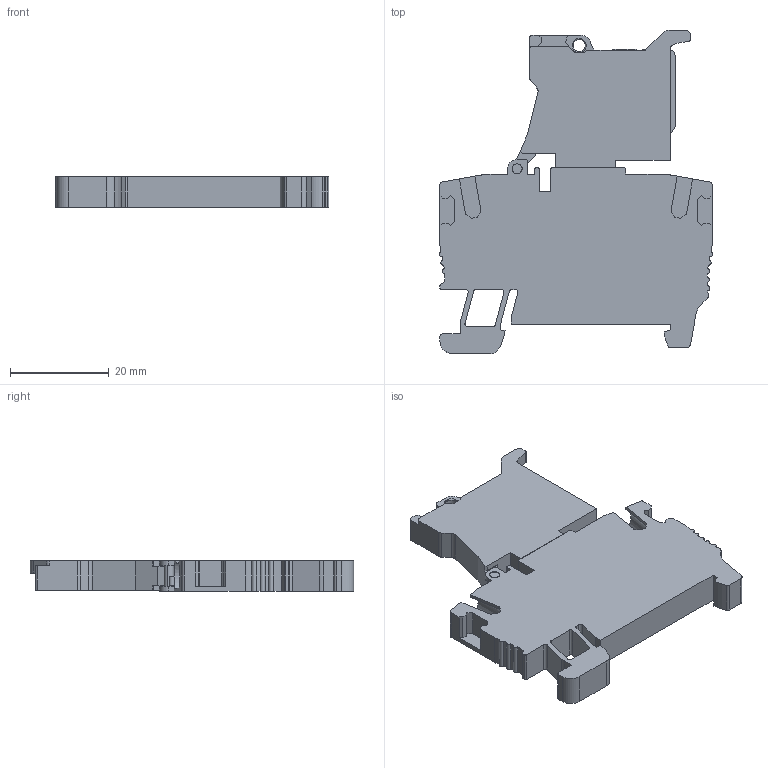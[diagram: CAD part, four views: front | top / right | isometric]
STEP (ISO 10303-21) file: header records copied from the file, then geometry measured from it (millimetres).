
FILE_DESCRIPTION(('Creo Elements/Direct Modeling STEP Export'),'2;1');
FILE_NAME('EFF.4 (CIL - C48 - C230).stp','2019-07-26T14:44:42',(''),(''),'Creo Elements/Direct Modeling STEP processor for AP214 (Solid Model)','Creo Elements/Direct Modeling 20.0 12-Nov-2016 (C) Parametric Technology GmbH','');
FILE_SCHEMA(('AUTOMOTIVE_DESIGN { 1 0 10303 214 1 1 1 1 }'));
Length unit declared in the file: millimetre
Products named in the file (2): EFF_4__CIL
Assembly tree (1 placements, depth 2):
  EFF_4__CIL
    EFF_4__CIL
Bounding box: 55.56 x 65.6 x 6.2 mm (x, y, z)
Volume: 13532.7 mm3; surface area: 7742.6 mm2
Topology: 1 solids, 1 shells, 334 faces, 953 edges, 630 vertices
Faces by surface type: plane 243, cylinder 89, cone 2
Entity records: 12000 total; most frequent: ORIENTED_EDGE 1906, CARTESIAN_POINT 1902, DIRECTION 1786, EDGE_CURVE 953, VECTOR 758, LINE 758, VERTEX_POINT 630, AXIS2_PLACEMENT_3D 514
